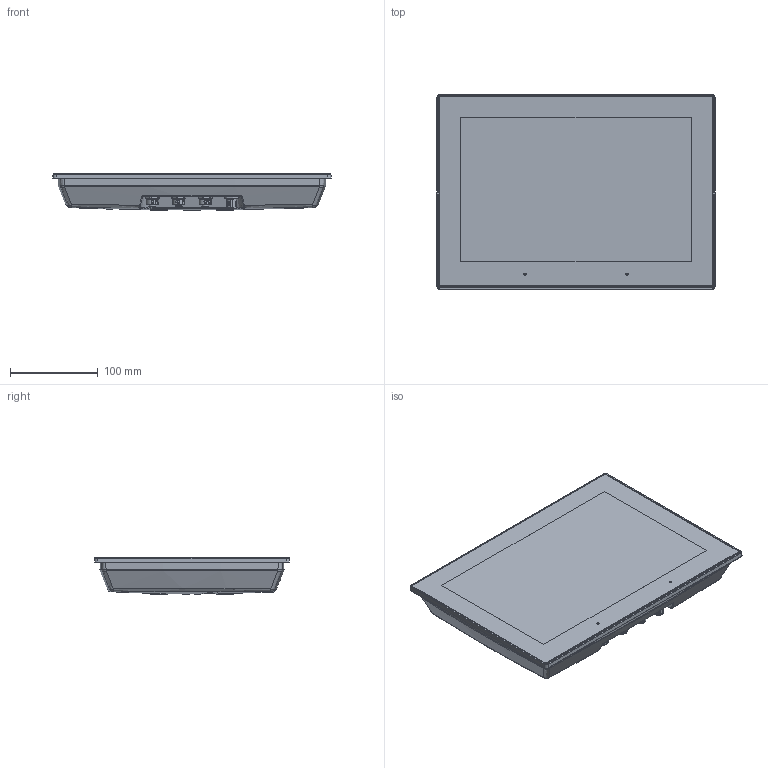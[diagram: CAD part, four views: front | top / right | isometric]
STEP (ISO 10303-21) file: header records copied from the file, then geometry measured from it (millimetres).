
FILE_DESCRIPTION(/* description */ ('Unknown'),/* implementation_level */ '2;1');
FILE_NAME(/* name */ 'V1200rPa16',/* time_stamp */ '2021-06-29T12:52:10+02:00',/* author */ ('Unknown'),/* organization */ ('Unknown'),/* preprocessor_version */ 'ST-DEVELOPER v16.7',/* originating_system */ 'Solid Edge',/* authorisation */ 'Unknown');
FILE_SCHEMA (('AUTOMOTIVE_DESIGN {1 0 10303 214 3 1 1}'));
Products named in the file (23): V1200rPa16; 050; 050-Pa22; 051; 040; 041; 042; 043; 030; 032; 033; 020; 010; 015; 016; 011; 012; 013; 014; 005; 002; 003; 001
Assembly tree (28 placements, depth 4):
  V1200rPa16
    050
      050-Pa22
      051  x4
    040  x3
      041
      042
      043
    030
      032
      033
    020
    010
      015
        016
      011
        012
      013  x2
        014
    005
      002
      003
    001
Bounding box: 316.34 x 221.67 x 41.01 mm (x, y, z)
Volume: 2296967 mm3; surface area: 377314.1 mm2
Topology: 26 solids, 46 shells, 4505 faces, 11708 edges, 7396 vertices
Faces by surface type: plane 2237, cylinder 1202, bspline 377, torus 369, cone 261, sphere 59
Full cylindrical faces by diameter (mm): 0.28 x1, 0.7 x8, 0.725 x2, 0.75 x1, 0.8 x24, 0.85 x3, 1 x13, 1.125 x10, 1.24 x8, 2 x6, 2.5 x2, 4.917 x4, 7 x8, 7.475 x4, 7.6 x4, 8 x5, 8.15 x2, 8.25 x1, 8.4 x3, 8.7 x4, 8.85 x4, 8.9 x2, 9 x3, 9.3 x2, 9.35 x1, 11 x4, 11.7 x3, 11.8 x7, 12 x4, 12.5 x1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
Entity records: 140096 total; most frequent: CARTESIAN_POINT 36505, ORIENTED_EDGE 17460, DIRECTION 16390, EDGE_CURVE 8730, AXIS2_PLACEMENT_3D 5677, VERTEX_POINT 5618, LINE 5036, VECTOR 5036
